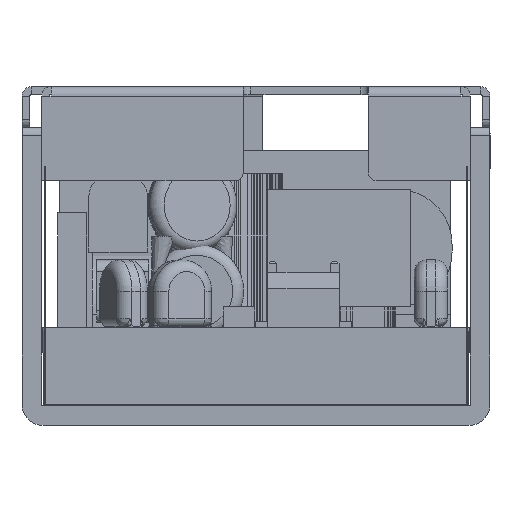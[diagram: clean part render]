
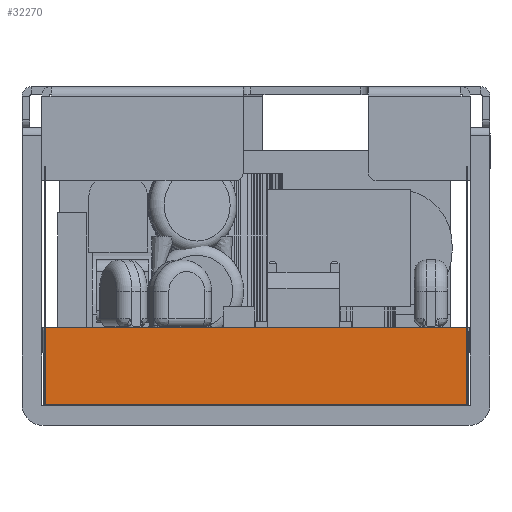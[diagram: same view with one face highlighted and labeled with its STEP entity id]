
A CAD part, left-side view. The second image highlights one B-rep face of the part: STEP entity #32270.
In plain terms, the highlighted planar face has unit normal (-1, 0, -0.009) as drawn and (0, -1, -0.009) by its records, which use the part's own axes.
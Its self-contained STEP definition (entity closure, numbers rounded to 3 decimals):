
#1714=LINE($,#45704,#5427);
#1716=LINE($,#45709,#5429);
#1720=LINE($,#45719,#5433);
#1722=LINE($,#45722,#5435);
#5427=VECTOR($,#37074,53.803);
#5429=VECTOR($,#37080,9.802);
#5433=VECTOR($,#37092,9.802);
#5435=VECTOR($,#37096,53.975);
#9038=PLANE($,#34191);
#11034=FACE_OUTER_BOUND($,#12858,.T.);
#12858=EDGE_LOOP($,(#23659,#23660,#23661,#23662));
#15791=VERTEX_POINT($,#45691);
#15795=VERTEX_POINT($,#45700);
#15796=VERTEX_POINT($,#45707);
#15798=VERTEX_POINT($,#45717);
#18900=EDGE_CURVE($,#15791,#15795,#1714,.T.);
#18903=EDGE_CURVE($,#15795,#15796,#1716,.T.);
#18908=EDGE_CURVE($,#15798,#15791,#1720,.T.);
#18910=EDGE_CURVE($,#15798,#15796,#1722,.T.);
#23659=ORIENTED_EDGE($,*,*,#18903,.F.);
#23660=ORIENTED_EDGE($,*,*,#18900,.F.);
#23661=ORIENTED_EDGE($,*,*,#18908,.F.);
#23662=ORIENTED_EDGE($,*,*,#18910,.T.);
#32270=ADVANCED_FACE($,(#11034),#9038,.T.);
#34191=AXIS2_PLACEMENT_3D($,#45721,#37094,#37095);
#37074=DIRECTION($,(-1.,0.,0.));
#37080=DIRECTION($,(-0.009,-0.009,1.));
#37092=DIRECTION($,(-0.009,0.009,-1.));
#37094=DIRECTION('center_axis',(0.,-1.,-0.009));
#37095=DIRECTION('ref_axis',(1.,0.,0.));
#37096=DIRECTION($,(-1.,0.,0.));
#45691=CARTESIAN_POINT('',(54.002,-0.002,0.198));
#45700=CARTESIAN_POINT('',(0.198,-0.002,0.198));
#45704=CARTESIAN_POINT($,(40.65,-0.002,0.198));
#45707=CARTESIAN_POINT('',(0.113,-0.087,10.));
#45709=CARTESIAN_POINT($,(0.202,0.002,-0.235));
#45717=CARTESIAN_POINT('',(54.087,-0.087,10.));
#45719=CARTESIAN_POINT($,(54.,0.,-0.042));
#45721=CARTESIAN_POINT('Origin',(54.2,0.,0.));
#45722=CARTESIAN_POINT($,(0.,-0.087,10.));
